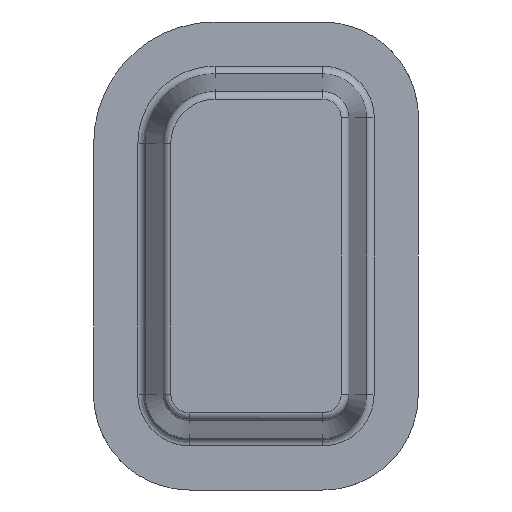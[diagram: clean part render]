
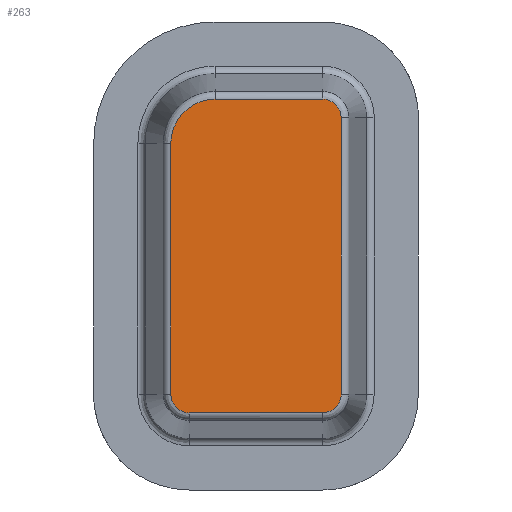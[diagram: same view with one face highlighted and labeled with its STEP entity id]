
A CAD part, front view. The second image highlights one B-rep face of the part: STEP entity #263.
In plain terms, the highlighted planar face has unit normal (0, -1, 0).
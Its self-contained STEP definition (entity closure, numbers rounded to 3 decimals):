
#144=CARTESIAN_POINT('Axis2P3D Location',(37.08,0.,62.92)) ;
#149=CARTESIAN_POINT('Line Origine',(2.749,0.,59.)) ;
#153=CARTESIAN_POINT('Vertex',(2.749,0.,108.)) ;
#155=CARTESIAN_POINT('Vertex',(2.749,0.,10.)) ;
#159=CARTESIAN_POINT('Control Point',(2.749,0.,10.)) ;
#160=CARTESIAN_POINT('Control Point',(2.749,0.,9.039)) ;
#161=CARTESIAN_POINT('Control Point',(2.908,0.,8.077)) ;
#162=CARTESIAN_POINT('Control Point',(3.226,0.,7.153)) ;
#163=CARTESIAN_POINT('Control Point',(4.156,0.,5.444)) ;
#164=CARTESIAN_POINT('Control Point',(5.587,0.,4.126)) ;
#165=CARTESIAN_POINT('Control Point',(6.406,0.,3.592)) ;
#166=CARTESIAN_POINT('Control Point',(7.614,0.,3.065)) ;
#167=CARTESIAN_POINT('Control Point',(8.895,0.,2.822)) ;
#168=CARTESIAN_POINT('Control Point',(9.234,0.,2.777)) ;
#169=CARTESIAN_POINT('Control Point',(9.592,0.,2.752)) ;
#170=CARTESIAN_POINT('Control Point',(9.949,0.,2.749)) ;
#171=CARTESIAN_POINT('Control Point',(9.966,0.,2.749)) ;
#172=CARTESIAN_POINT('Control Point',(9.983,0.,2.749)) ;
#173=CARTESIAN_POINT('Control Point',(10.,0.,2.749)) ;
#174=CARTESIAN_POINT('Vertex',(10.,0.,2.749)) ;
#177=CARTESIAN_POINT('Line Origine',(36.,0.,2.749)) ;
#181=CARTESIAN_POINT('Vertex',(62.,0.,2.749)) ;
#185=CARTESIAN_POINT('Control Point',(62.,0.,2.749)) ;
#186=CARTESIAN_POINT('Control Point',(62.961,0.,2.749)) ;
#187=CARTESIAN_POINT('Control Point',(63.923,0.,2.908)) ;
#188=CARTESIAN_POINT('Control Point',(64.847,0.,3.226)) ;
#189=CARTESIAN_POINT('Control Point',(66.556,0.,4.156)) ;
#190=CARTESIAN_POINT('Control Point',(67.874,0.,5.587)) ;
#191=CARTESIAN_POINT('Control Point',(68.408,0.,6.406)) ;
#192=CARTESIAN_POINT('Control Point',(68.935,0.,7.614)) ;
#193=CARTESIAN_POINT('Control Point',(69.178,0.,8.895)) ;
#194=CARTESIAN_POINT('Control Point',(69.223,0.,9.234)) ;
#195=CARTESIAN_POINT('Control Point',(69.248,0.,9.592)) ;
#196=CARTESIAN_POINT('Control Point',(69.251,0.,9.949)) ;
#197=CARTESIAN_POINT('Control Point',(69.251,0.,9.966)) ;
#198=CARTESIAN_POINT('Control Point',(69.251,0.,9.983)) ;
#199=CARTESIAN_POINT('Control Point',(69.251,0.,10.)) ;
#200=CARTESIAN_POINT('Vertex',(69.251,0.,10.)) ;
#203=CARTESIAN_POINT('Line Origine',(69.251,0.,64.)) ;
#207=CARTESIAN_POINT('Vertex',(69.251,0.,118.)) ;
#211=CARTESIAN_POINT('Control Point',(69.251,0.,118.)) ;
#212=CARTESIAN_POINT('Control Point',(69.251,0.,118.961)) ;
#213=CARTESIAN_POINT('Control Point',(69.092,0.,119.923)) ;
#214=CARTESIAN_POINT('Control Point',(68.774,0.,120.847)) ;
#215=CARTESIAN_POINT('Control Point',(67.844,0.,122.556)) ;
#216=CARTESIAN_POINT('Control Point',(66.413,0.,123.874)) ;
#217=CARTESIAN_POINT('Control Point',(65.594,0.,124.408)) ;
#218=CARTESIAN_POINT('Control Point',(64.386,0.,124.935)) ;
#219=CARTESIAN_POINT('Control Point',(63.105,0.,125.178)) ;
#220=CARTESIAN_POINT('Control Point',(62.766,0.,125.223)) ;
#221=CARTESIAN_POINT('Control Point',(62.408,0.,125.248)) ;
#222=CARTESIAN_POINT('Control Point',(62.051,0.,125.251)) ;
#223=CARTESIAN_POINT('Control Point',(62.034,0.,125.251)) ;
#224=CARTESIAN_POINT('Control Point',(62.017,0.,125.251)) ;
#225=CARTESIAN_POINT('Control Point',(62.,0.,125.251)) ;
#226=CARTESIAN_POINT('Vertex',(62.,0.,125.251)) ;
#229=CARTESIAN_POINT('Line Origine',(41.,0.,125.251)) ;
#233=CARTESIAN_POINT('Vertex',(20.,0.,125.251)) ;
#237=CARTESIAN_POINT('Control Point',(20.,0.,125.251)) ;
#238=CARTESIAN_POINT('Control Point',(18.077,0.,125.251)) ;
#239=CARTESIAN_POINT('Control Point',(16.154,0.,124.983)) ;
#240=CARTESIAN_POINT('Control Point',(14.282,0.,124.447)) ;
#241=CARTESIAN_POINT('Control Point',(10.737,0.,122.869)) ;
#242=CARTESIAN_POINT('Control Point',(7.758,0.,120.383)) ;
#243=CARTESIAN_POINT('Control Point',(6.452,0.,118.939)) ;
#244=CARTESIAN_POINT('Control Point',(4.494,0.,116.047)) ;
#245=CARTESIAN_POINT('Control Point',(3.314,0.,112.77)) ;
#246=CARTESIAN_POINT('Control Point',(2.954,0.,111.26)) ;
#247=CARTESIAN_POINT('Control Point',(2.762,0.,109.686)) ;
#248=CARTESIAN_POINT('Control Point',(2.749,0.,108.11)) ;
#249=CARTESIAN_POINT('Control Point',(2.749,0.,108.074)) ;
#250=CARTESIAN_POINT('Control Point',(2.749,0.,108.037)) ;
#251=CARTESIAN_POINT('Control Point',(2.749,0.,108.)) ;
#145=DIRECTION('Axis2P3D Direction',(0.,-1.,0.)) ;
#146=DIRECTION('Axis2P3D XDirection',(0.05,0.,0.999)) ;
#150=DIRECTION('Vector Direction',(0.,0.,1.)) ;
#178=DIRECTION('Vector Direction',(1.,0.,0.)) ;
#204=DIRECTION('Vector Direction',(0.,0.,1.)) ;
#230=DIRECTION('Vector Direction',(-1.,0.,0.)) ;
#147=AXIS2_PLACEMENT_3D('Plane Axis2P3D',#144,#145,#146) ;
#254=ORIENTED_EDGE('',*,*,#157,.T.) ;
#255=ORIENTED_EDGE('',*,*,#176,.T.) ;
#256=ORIENTED_EDGE('',*,*,#183,.T.) ;
#257=ORIENTED_EDGE('',*,*,#202,.T.) ;
#258=ORIENTED_EDGE('',*,*,#209,.T.) ;
#259=ORIENTED_EDGE('',*,*,#228,.T.) ;
#260=ORIENTED_EDGE('',*,*,#235,.T.) ;
#261=ORIENTED_EDGE('',*,*,#252,.T.) ;
#151=VECTOR('Line Direction',#150,1.) ;
#179=VECTOR('Line Direction',#178,1.) ;
#205=VECTOR('Line Direction',#204,1.) ;
#231=VECTOR('Line Direction',#230,1.) ;
#263=ADVANCED_FACE('base',(#262),#148,.T.) ;
#158=B_SPLINE_CURVE_WITH_KNOTS('',5,(#159,#160,#161,#162,#163,#164,#165,#166,#167,#168,#169,#170,#171,#172,#173),.UNSPECIFIED.,.F.,.U.,(6,3,3,3,6),(31.711,42.276,52.846,56.589,56.776),.UNSPECIFIED.) ;
#184=B_SPLINE_CURVE_WITH_KNOTS('',5,(#185,#186,#187,#188,#189,#190,#191,#192,#193,#194,#195,#196,#197,#198,#199),.UNSPECIFIED.,.F.,.U.,(6,3,3,3,6),(31.711,42.276,52.846,56.59,56.776),.UNSPECIFIED.) ;
#210=B_SPLINE_CURVE_WITH_KNOTS('',5,(#211,#212,#213,#214,#215,#216,#217,#218,#219,#220,#221,#222,#223,#224,#225),.UNSPECIFIED.,.F.,.U.,(6,3,3,3,6),(31.712,42.277,52.847,56.59,56.776),.UNSPECIFIED.) ;
#236=B_SPLINE_CURVE_WITH_KNOTS('',5,(#237,#238,#239,#240,#241,#242,#243,#244,#245,#246,#247,#248,#249,#250,#251),.UNSPECIFIED.,.F.,.U.,(6,3,3,3,6),(43.885,60.355,76.845,90.028,90.344),.UNSPECIFIED.) ;
#157=EDGE_CURVE('',#154,#156,#152,.F.) ;
#176=EDGE_CURVE('',#156,#175,#158,.T.) ;
#183=EDGE_CURVE('',#175,#182,#180,.T.) ;
#202=EDGE_CURVE('',#182,#201,#184,.T.) ;
#209=EDGE_CURVE('',#201,#208,#206,.T.) ;
#228=EDGE_CURVE('',#208,#227,#210,.T.) ;
#235=EDGE_CURVE('',#227,#234,#232,.T.) ;
#252=EDGE_CURVE('',#234,#154,#236,.T.) ;
#253=EDGE_LOOP('',(#254,#255,#256,#257,#258,#259,#260,#261)) ;
#262=FACE_OUTER_BOUND('',#253,.T.) ;
#152=LINE('Line',#149,#151) ;
#180=LINE('Line',#177,#179) ;
#206=LINE('Line',#203,#205) ;
#232=LINE('Line',#229,#231) ;
#148=PLANE('',#147) ;
#154=VERTEX_POINT('',#153) ;
#156=VERTEX_POINT('',#155) ;
#175=VERTEX_POINT('',#174) ;
#182=VERTEX_POINT('',#181) ;
#201=VERTEX_POINT('',#200) ;
#208=VERTEX_POINT('',#207) ;
#227=VERTEX_POINT('',#226) ;
#234=VERTEX_POINT('',#233) ;
